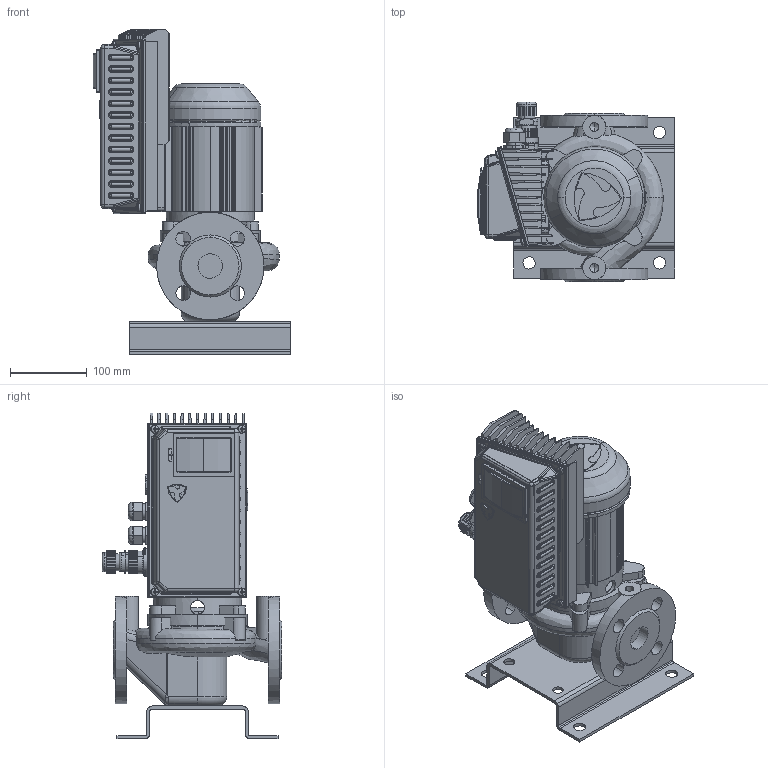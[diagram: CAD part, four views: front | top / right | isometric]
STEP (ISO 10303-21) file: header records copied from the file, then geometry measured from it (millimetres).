
FILE_DESCRIPTION(('STEP AP214'),'1');
FILE_NAME('export.stp','2018-05-31T12:31:04',(' '),(' '),'Spatial InterOp 3D',' ',' ');
FILE_SCHEMA(('AUTOMOTIVE_DESIGN { 1 0 10303 214 1 1 1 1 }'));
Length unit declared in the file: millimetre
Products named in the file (34): W_L32A4200SC_OP; V_EKN12OP7; V_TLL32AAP15AKP25; V_PPL32A; V_JALKA35973; P100471; P100466; P100453; P100467; DIN_7985-M5x12; P100515; P100512; P100513; P100514; P100509; ontto_sylinteri; DIN_7985-M3x12; P100606; P100607; P100565; P100567; P100566; P100569; P100581; P101504; P101332; PART3; PART4; V_MOP752_SC; V_MOP752753762_SC; RU_OP_752_753_762; TSUOJA_OP_7
Assembly tree (38 placements, depth 5):
  W_L32A4200SC_OP
    V_EKN12OP7
    V_TLL32AAP15AKP25
    V_PPL32A
    V_JALKA35973
    V_MOP752_SC
      P100471
        P100466
        P100453
        P100467
        DIN_7985-M5x12  x4
        P100515
          P100512
          P100513
          P100514
          P100509
          ontto_sylinteri
        DIN_7985-M3x12  x2
        P100606
          P100607
          P100565
          ontto_sylinteri
        P100567
          P100566
          P100565
          ontto_sylinteri
        P100569
        P100581
        P101504
        P101332
          PART3
          PART4
      V_MOP752753762_SC
        RU_OP_752_753_762
        TSUOJA_OP_7
Bounding box: 257.62 x 234.34 x 425.08 mm (x, y, z)
Volume: 3460411.2 mm3; surface area: 847474 mm2
Topology: 31 solids, 31 shells, 2466 faces, 6551 edges, 4185 vertices
Faces by surface type: plane 1108, cylinder 949, torus 139, cone 104, sphere 88, bspline 78
Entity records: 109285 total; most frequent: CARTESIAN_POINT 21942, DIRECTION 13141, ORIENTED_EDGE 12442, EDGE_CURVE 6221, AXIS2_PLACEMENT_3D 4938, VERTEX_POINT 4011, STYLED_ITEM 3888, PRESENTATION_STYLE_ASSIGNMENT 3888
